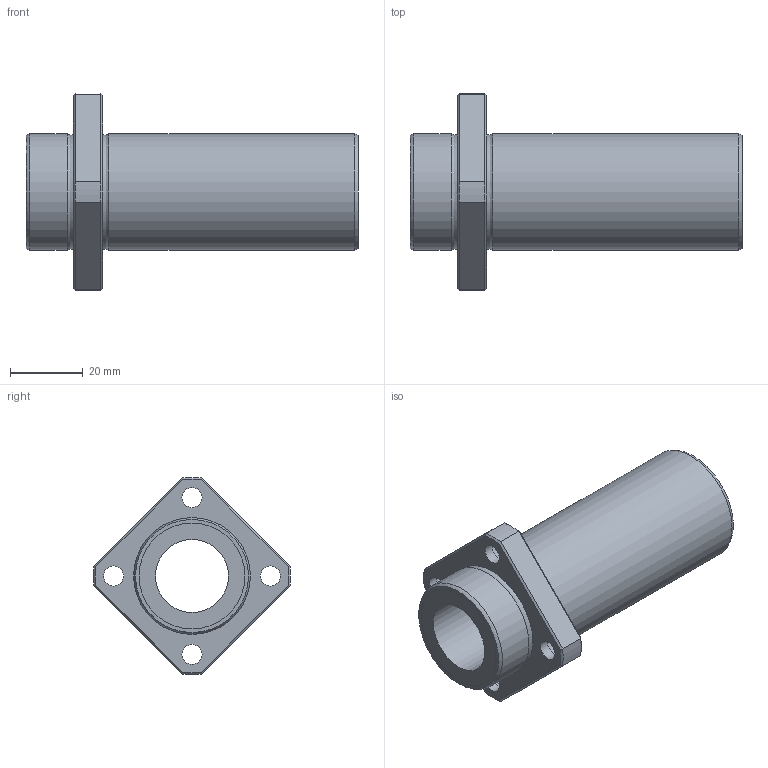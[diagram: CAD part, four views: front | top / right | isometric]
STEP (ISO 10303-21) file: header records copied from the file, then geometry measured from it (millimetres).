
FILE_DESCRIPTION((''),'2;1');
FILE_NAME('D:\製品 (図面)\カタログ用3D\メンテナンスフリー関連\STEP形式\LFDKB-MF\LFDKB20MF.stp','2010-06-01T15:41:04',('Tsuchiya'),(''),'Autodesk Inventor 10','Autodesk Inventor 10','');
FILE_SCHEMA(('AUTOMOTIVE_DESIGN { 1 0 10303 214 1 1 1 1 }'));
Length unit declared in the file: millimetre
Products named in the file (1): LFDKB20MF
Bounding box: 91 x 53.97 x 53.97 mm (x, y, z)
Volume: 50173.8 mm3; surface area: 18664.7 mm2
Topology: 1 solids, 1 shells, 51 faces, 103 edges, 62 vertices
Faces by surface type: plane 18, bspline 14, cylinder 9, cone 8, torus 2
Full cylindrical faces by diameter (mm): 20 x1, 29 x2, 32 x2
Entity records: 1517 total; most frequent: CARTESIAN_POINT 520, DIRECTION 192, ORIENTED_EDGE 172, EDGE_CURVE 86, EDGE_LOOP 86, AXIS2_PLACEMENT_3D 84, VERTEX_POINT 62, FACE_OUTER_BOUND 51
